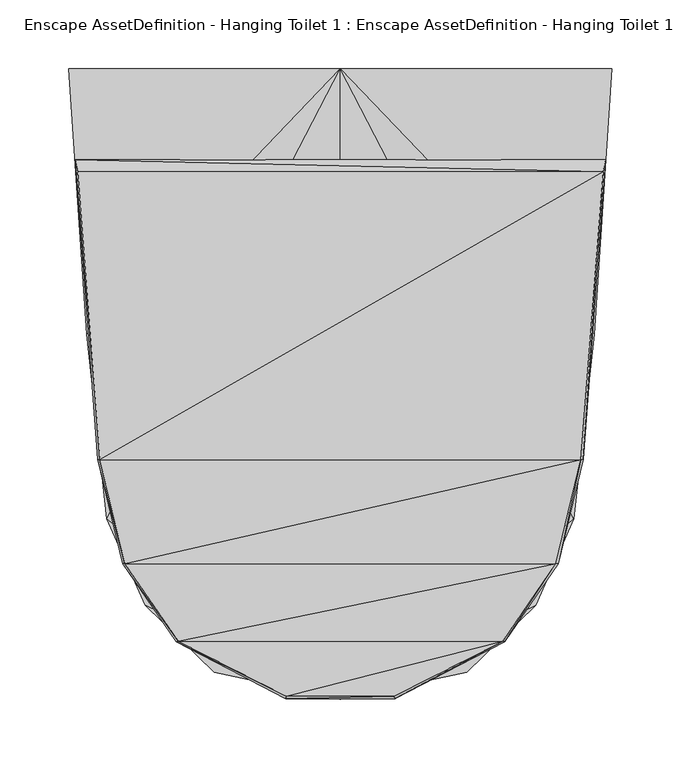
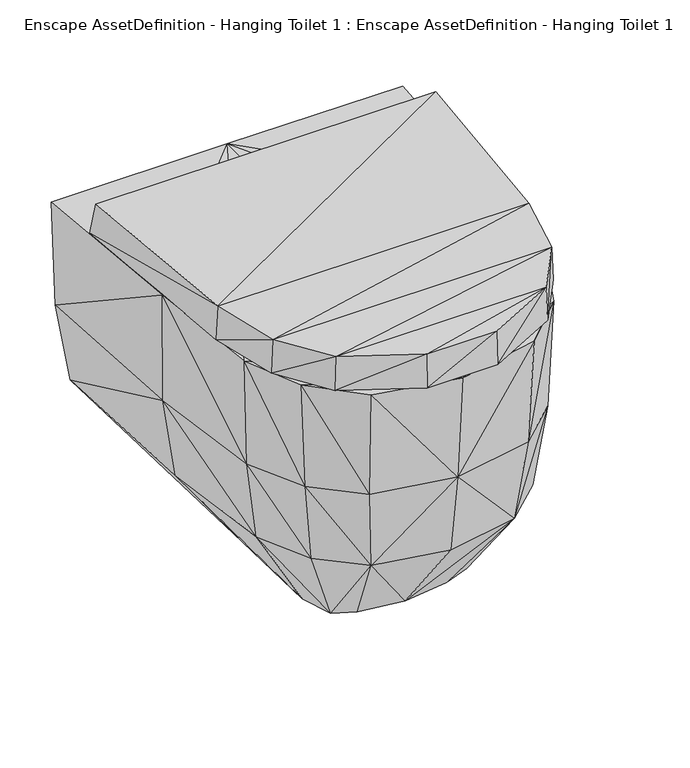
"""IFC4 building model written with IfcOpenShell, lengths in millimetres: geographic element geometry, Enscape AssetDefinition - Hanging Toilet 1 : Enscape AssetDefinition - Hanging Toilet 1."""

from ifc_helpers import new_model, si_unit, origin, place, context, project, spatial, faceted_brep, source, transform, mapped, element, save


def enscape_assetdefinition_hanging_toilet_1_enscape_ed570b02(model_context):
    return source(origin(), model_context, "Body", "Brep", [
        faceted_brep([(-80.0887048, -418.7459648, 114.2902598), (0.0, -447.6020038, 208.9729011), (-88.7663215, -430.8369458, 208.9390606), (0.0, -434.5521927, 114.4992411), (-91.5895253, -438.0565286, 332.4739039), (0.0, -457.4542046, 332.4699998), (80.0887048, -418.7459648, 114.2902598), (88.7663215, -430.8369458, 208.9390606), (91.5895253, -438.0565286, 332.4739039), (0.0, -346.1844921, 0.1538344), (-50.1858145, -339.3635452, 0.644363), (0.0, -296.6604829, 2.9112438), (50.1858145, -339.3635452, 0.644363), (-76.2718692, -333.6542845, 4.5753643), (-86.9977176, -296.6604829, 2.9112438), (0.0, -183.4441423, 3.0041246), (86.9977176, -296.6604829, 2.9112438), (76.2718692, -333.6542845, 4.5753643), (152.2573531, -320.4989731, 113.734901), (168.1487411, -190.4905289, 113.9245331), (89.1668722, -183.4441423, 3.0041246), (124.2111251, -378.4655631, 113.8103679), (166.1711633, -325.8338571, 208.8248879), (183.2516193, -192.2233403, 208.8229507), (176.1520058, -0.0319279, 113.9941961), (88.5495991, -0.0319279, 3.0370201), (193.1666732, 0.0, 208.8432759), (-176.1520058, -0.0319279, 113.9941961), (0.0, -0.0367655, 333.1337273), (0.0, -0.0319279, 3.0370201), (184.1533333, -192.5077885, 334.4573081), (197.1286386, -0.0493431, 332.4855268), (169.5264876, -326.6233504, 332.4864805), (136.020571, -387.5214458, 208.861649), (141.7172849, -389.3577754, 332.4796855), (-141.7172849, -389.3577754, 332.4796855), (-169.5264876, -326.6233504, 332.4864805), (-136.020571, -387.5214458, 208.861649), (-166.1711633, -325.8338571, 208.8248879), (-124.2111251, -378.4655631, 113.8103679), (-152.2573531, -320.4989731, 113.734901), (-184.1533333, -192.5077885, 334.4573081), (-183.2516193, -192.2233403, 208.8229507), (-168.1487411, -190.4905289, 113.9245331), (-193.1666732, 0.0, 208.8432759), (-197.1286386, -0.0493431, 332.4855268), (-89.1668722, -183.4441423, 3.0041246), (-88.5495991, -0.0319279, 3.0370201)], [[[0, 1, 2]], [[1, 0, 3]], [[4, 1, 5]], [[1, 4, 2]], [[6, 1, 3]], [[1, 6, 7]], [[1, 8, 5]], [[8, 1, 7]], [[0, 9, 3]], [[9, 6, 3]], [[9, 0, 10]], [[10, 11, 9]], [[6, 9, 12]], [[11, 12, 9]], [[0, 13, 10]], [[14, 10, 13]], [[11, 10, 14]], [[14, 15, 11]], [[15, 16, 11]], [[12, 11, 16]], [[17, 6, 12]], [[17, 12, 16]], [[18, 17, 16]], [[16, 19, 18]], [[19, 16, 20]], [[16, 15, 20]], [[6, 17, 21]], [[17, 18, 21]], [[22, 21, 18]], [[18, 23, 22]], [[23, 18, 19]], [[24, 23, 19]], [[20, 24, 19]], [[24, 20, 25]], [[15, 25, 20]], [[23, 24, 26]], [[27, 28, 24]], [[29, 24, 25]], [[24, 28, 26]], [[27, 24, 29]], [[30, 22, 23]], [[26, 30, 23]], [[30, 26, 31]], [[26, 28, 31]], [[28, 32, 30]], [[22, 30, 32]], [[30, 31, 28]], [[32, 28, 5]], [[33, 32, 34]], [[32, 33, 22]], [[34, 32, 5]], [[5, 35, 4]], [[28, 36, 5]], [[5, 36, 35]], [[8, 34, 5]], [[7, 34, 8]], [[34, 7, 33]], [[6, 33, 7]], [[33, 6, 21]], [[21, 22, 33]], [[35, 2, 4]], [[2, 35, 37]], [[36, 37, 35]], [[37, 0, 2]], [[37, 36, 38]], [[0, 37, 39]], [[38, 39, 37]], [[13, 0, 39]], [[39, 38, 40]], [[40, 13, 39]], [[41, 38, 36]], [[38, 41, 42]], [[42, 40, 38]], [[40, 42, 43]], [[13, 40, 14]], [[43, 14, 40]], [[27, 42, 44]], [[42, 27, 43]], [[41, 44, 42]], [[36, 28, 41]], [[44, 41, 45]], [[28, 45, 41]], [[28, 44, 45]], [[28, 27, 44]], [[27, 46, 43]], [[46, 27, 47]], [[27, 29, 47]], [[14, 43, 46]], [[15, 14, 46]], [[47, 15, 46]], [[15, 47, 29]], [[25, 15, 29]]]),
        faceted_brep([(-192.5494075, -66.0268888, 334.2037797), (190.7401532, -74.8109296, 373.4470606), (192.5494075, -66.0268888, 334.2037797), (-190.7401532, -74.8109296, 373.4470606), (176.341638, -283.2991183, 334.2037797), (174.5943129, -283.7780416, 373.4151423), (-174.5943129, -283.7780416, 373.4151423), (-176.341638, -283.2991183, 334.2037797), (158.1688523, -359.4210148, 334.2037797), (-156.4215422, -359.4210148, 373.4122217), (156.4215422, -359.4210148, 373.4122217), (119.3039045, -415.851146, 334.2037797), (39.5257659, -457.223922, 334.2037797), (-158.1688523, -359.4210148, 334.2037797), (-119.3039045, -415.851146, 334.2037797), (-117.8719848, -415.3316021, 373.4122217), (117.8719848, -415.3316021, 373.4122217), (39.1552113, -455.5191696, 373.4122217), (-39.5257659, -457.223922, 334.2037797), (-39.1552113, -455.5191696, 373.4122217)], [[[0, 1, 2]], [[1, 0, 3]], [[1, 4, 2]], [[4, 1, 5]], [[1, 6, 5]], [[6, 1, 3]], [[7, 0, 2]], [[8, 2, 4]], [[7, 2, 8]], [[6, 0, 7]], [[0, 6, 3]], [[7, 9, 6]], [[9, 5, 6]], [[8, 5, 10]], [[5, 8, 4]], [[5, 9, 10]], [[10, 11, 8]], [[12, 8, 11]], [[7, 8, 12]], [[9, 7, 13]], [[7, 14, 13]], [[7, 12, 14]], [[13, 15, 9]], [[15, 10, 9]], [[11, 10, 16]], [[10, 15, 16]], [[16, 12, 11]], [[17, 18, 12]], [[12, 16, 17]], [[14, 12, 18]], [[15, 13, 14]], [[19, 14, 18]], [[14, 19, 15]], [[19, 16, 15]], [[16, 19, 17]], [[18, 17, 19]]]),
    ])


if __name__ == "__main__":
    model = new_model("IFC4")
    model_context = context("Model", 3, world=origin())
    ifc_project = project(units=[si_unit("LENGTHUNIT", "METRE", prefix="MILLI")], contexts=[model_context])
    site = spatial("IfcSite", under=ifc_project)
    building = spatial("IfcBuilding", under=site)
    placement = place(None, origin())
    enscape_assetdefinition_hanging_toilet_1_enscape_shape = enscape_assetdefinition_hanging_toilet_1_enscape_ed570b02(model_context)
    element("IfcGeographicElement", 1, ObjectType="Enscape AssetDefinition - Hanging Toilet 1 : Enscape AssetDefinition - Hanging Toilet 1", at=placement, inside=building, context=model_context, shape_type="MappedRepresentation", body=[
        mapped(enscape_assetdefinition_hanging_toilet_1_enscape_shape, transform((0.0, 0.0, 0.0), x_axis=(1.0, 0.0, 0.0), y_axis=(0.0, 1.0, 0.0), z_axis=(0.0, 0.0, 1.0))),
    ])
    save(model, "model.ifc")
